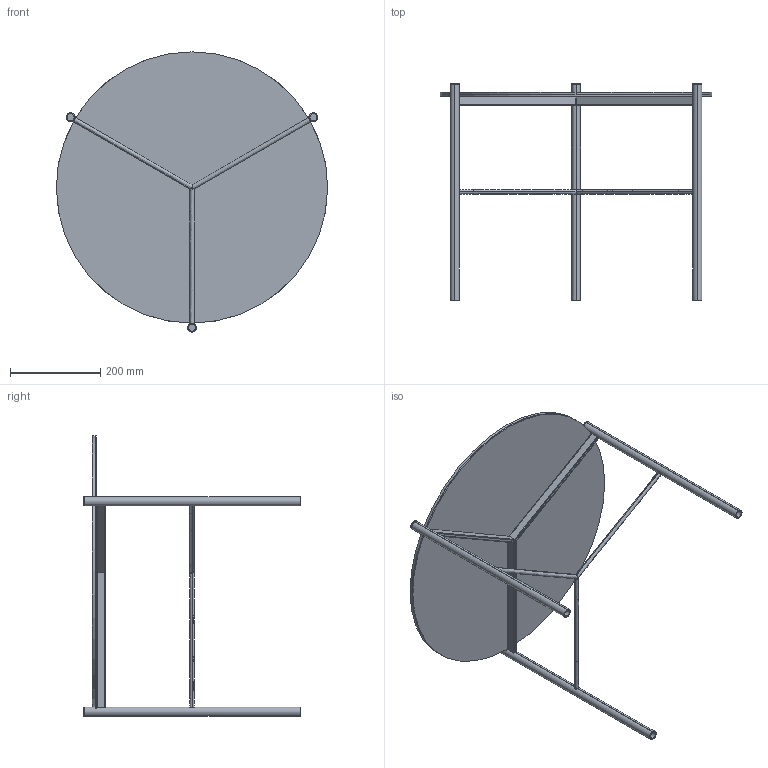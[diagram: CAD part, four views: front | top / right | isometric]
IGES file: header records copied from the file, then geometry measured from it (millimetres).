
Start section: SolidWorks IGES file using analytic representation for surfaces
Global section: file name: Y:\eforma\TECNICO\SOLIDWORKS\E-FORMA\2-TAVOLINI\JACK\02 parts\J301G.IGS; native system: SolidWorks 2022; preprocessor: SolidWorks 2022; author: eforma.tech; date: 240806.133215; units: millimetre
Bounding box: 600 x 479 x 620.07 mm (x, y, z)
Volume: 2779119.5 mm3; surface area: 1454621.1 mm2
Topology: 14 solids, 14 shells, 125 faces, 293 edges, 194 vertices
Faces by surface type: revolution 73, plane 52
